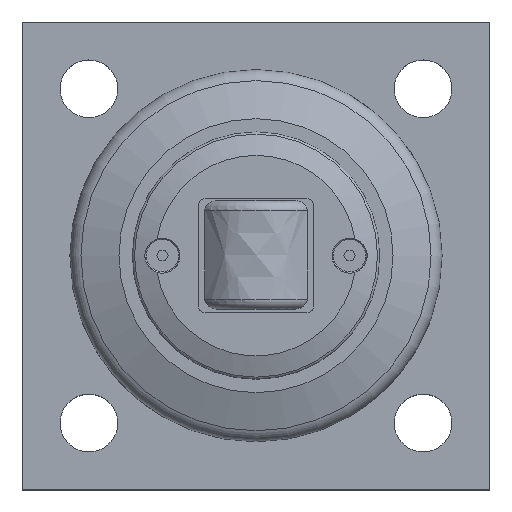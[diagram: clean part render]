
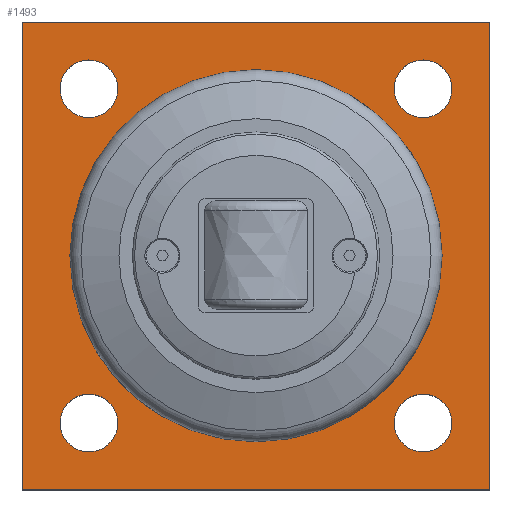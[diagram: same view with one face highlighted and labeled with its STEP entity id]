
A CAD part, top view. The second image highlights one B-rep face of the part: STEP entity #1493.
In plain terms, the highlighted planar face has unit normal (0, 0, 1).
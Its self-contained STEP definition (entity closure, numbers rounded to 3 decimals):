
#80=FACE_BOUND('',#335,.T.);
#81=FACE_BOUND('',#336,.T.);
#82=FACE_BOUND('',#337,.T.);
#83=FACE_BOUND('',#338,.T.);
#84=FACE_BOUND('',#339,.T.);
#167=CIRCLE('',#1670,35.);
#168=CIRCLE('',#1672,8.647);
#169=CIRCLE('',#1673,8.647);
#170=CIRCLE('',#1674,8.647);
#171=CIRCLE('',#1675,8.647);
#172=CIRCLE('',#1676,8.647);
#173=CIRCLE('',#1677,8.647);
#174=CIRCLE('',#1678,8.647);
#175=CIRCLE('',#1679,8.647);
#245=FACE_OUTER_BOUND('',#334,.T.);
#334=EDGE_LOOP('',(#1289,#1290,#1291,#1292));
#335=EDGE_LOOP('',(#1293));
#336=EDGE_LOOP('',(#1294,#1295));
#337=EDGE_LOOP('',(#1296,#1297));
#338=EDGE_LOOP('',(#1298,#1299));
#339=EDGE_LOOP('',(#1300,#1301));
#439=LINE('',#2656,#550);
#440=LINE('',#2658,#551);
#441=LINE('',#2660,#552);
#442=LINE('',#2661,#553);
#550=VECTOR('',#2062,10.);
#551=VECTOR('',#2063,10.);
#552=VECTOR('',#2064,10.);
#553=VECTOR('',#2065,10.);
#698=VERTEX_POINT('',#2650);
#699=VERTEX_POINT('',#2654);
#700=VERTEX_POINT('',#2655);
#701=VERTEX_POINT('',#2657);
#702=VERTEX_POINT('',#2659);
#703=VERTEX_POINT('',#2662);
#704=VERTEX_POINT('',#2663);
#705=VERTEX_POINT('',#2666);
#706=VERTEX_POINT('',#2667);
#707=VERTEX_POINT('',#2670);
#708=VERTEX_POINT('',#2671);
#709=VERTEX_POINT('',#2674);
#710=VERTEX_POINT('',#2675);
#902=EDGE_CURVE('',#698,#698,#167,.T.);
#903=EDGE_CURVE('',#699,#700,#439,.T.);
#904=EDGE_CURVE('',#701,#699,#440,.T.);
#905=EDGE_CURVE('',#702,#701,#441,.T.);
#906=EDGE_CURVE('',#700,#702,#442,.T.);
#907=EDGE_CURVE('',#703,#704,#168,.T.);
#908=EDGE_CURVE('',#704,#703,#169,.T.);
#909=EDGE_CURVE('',#705,#706,#170,.T.);
#910=EDGE_CURVE('',#706,#705,#171,.T.);
#911=EDGE_CURVE('',#707,#708,#172,.T.);
#912=EDGE_CURVE('',#708,#707,#173,.T.);
#913=EDGE_CURVE('',#709,#710,#174,.T.);
#914=EDGE_CURVE('',#710,#709,#175,.T.);
#1289=ORIENTED_EDGE('',*,*,#903,.F.);
#1290=ORIENTED_EDGE('',*,*,#904,.F.);
#1291=ORIENTED_EDGE('',*,*,#905,.F.);
#1292=ORIENTED_EDGE('',*,*,#906,.F.);
#1293=ORIENTED_EDGE('',*,*,#902,.T.);
#1294=ORIENTED_EDGE('',*,*,#907,.T.);
#1295=ORIENTED_EDGE('',*,*,#908,.T.);
#1296=ORIENTED_EDGE('',*,*,#909,.T.);
#1297=ORIENTED_EDGE('',*,*,#910,.T.);
#1298=ORIENTED_EDGE('',*,*,#911,.T.);
#1299=ORIENTED_EDGE('',*,*,#912,.T.);
#1300=ORIENTED_EDGE('',*,*,#913,.T.);
#1301=ORIENTED_EDGE('',*,*,#914,.T.);
#1416=PLANE('',#1671);
#1493=ADVANCED_FACE('',(#245,#80,#81,#82,#83,#84),#1416,.T.);
#1670=AXIS2_PLACEMENT_3D('',#2652,#2058,#2059);
#1671=AXIS2_PLACEMENT_3D('',#2653,#2060,#2061);
#1672=AXIS2_PLACEMENT_3D('',#2664,#2066,#2067);
#1673=AXIS2_PLACEMENT_3D('',#2665,#2068,#2069);
#1674=AXIS2_PLACEMENT_3D('',#2668,#2070,#2071);
#1675=AXIS2_PLACEMENT_3D('',#2669,#2072,#2073);
#1676=AXIS2_PLACEMENT_3D('',#2672,#2074,#2075);
#1677=AXIS2_PLACEMENT_3D('',#2673,#2076,#2077);
#1678=AXIS2_PLACEMENT_3D('',#2676,#2078,#2079);
#1679=AXIS2_PLACEMENT_3D('',#2677,#2080,#2081);
#2058=DIRECTION('center_axis',(0.,0.,-1.));
#2059=DIRECTION('ref_axis',(-1.,0.,0.));
#2060=DIRECTION('center_axis',(0.,0.,1.));
#2061=DIRECTION('ref_axis',(1.,0.,0.));
#2062=DIRECTION('',(0.,1.,0.));
#2063=DIRECTION('',(-1.,0.,0.));
#2064=DIRECTION('',(0.,-1.,0.));
#2065=DIRECTION('',(1.,0.,0.));
#2066=DIRECTION('center_axis',(0.,0.,-1.));
#2067=DIRECTION('ref_axis',(1.,0.,0.));
#2068=DIRECTION('center_axis',(0.,0.,-1.));
#2069=DIRECTION('ref_axis',(1.,0.,0.));
#2070=DIRECTION('center_axis',(0.,0.,-1.));
#2071=DIRECTION('ref_axis',(1.,0.,0.));
#2072=DIRECTION('center_axis',(0.,0.,-1.));
#2073=DIRECTION('ref_axis',(1.,0.,0.));
#2074=DIRECTION('center_axis',(0.,0.,-1.));
#2075=DIRECTION('ref_axis',(1.,0.,0.));
#2076=DIRECTION('center_axis',(0.,0.,-1.));
#2077=DIRECTION('ref_axis',(1.,0.,0.));
#2078=DIRECTION('center_axis',(0.,0.,-1.));
#2079=DIRECTION('ref_axis',(1.,0.,0.));
#2080=DIRECTION('center_axis',(0.,0.,-1.));
#2081=DIRECTION('ref_axis',(1.,0.,0.));
#2650=CARTESIAN_POINT('',(105.,70.,20.));
#2652=CARTESIAN_POINT('Origin',(70.,70.,20.));
#2653=CARTESIAN_POINT('Origin',(70.,70.,20.));
#2654=CARTESIAN_POINT('',(0.,0.,20.));
#2655=CARTESIAN_POINT('',(0.,140.,20.));
#2656=CARTESIAN_POINT('',(0.,140.,20.));
#2657=CARTESIAN_POINT('',(140.,0.,20.));
#2658=CARTESIAN_POINT('',(0.,0.,20.));
#2659=CARTESIAN_POINT('',(140.,140.,20.));
#2660=CARTESIAN_POINT('',(140.,0.,20.));
#2661=CARTESIAN_POINT('',(140.,140.,20.));
#2662=CARTESIAN_POINT('',(28.647,120.,20.));
#2663=CARTESIAN_POINT('',(11.353,120.,20.));
#2664=CARTESIAN_POINT('Origin',(20.,120.,20.));
#2665=CARTESIAN_POINT('Origin',(20.,120.,20.));
#2666=CARTESIAN_POINT('',(128.647,120.,20.));
#2667=CARTESIAN_POINT('',(111.353,120.,20.));
#2668=CARTESIAN_POINT('Origin',(120.,120.,20.));
#2669=CARTESIAN_POINT('Origin',(120.,120.,20.));
#2670=CARTESIAN_POINT('',(128.647,20.,20.));
#2671=CARTESIAN_POINT('',(111.353,20.,20.));
#2672=CARTESIAN_POINT('Origin',(120.,20.,20.));
#2673=CARTESIAN_POINT('Origin',(120.,20.,20.));
#2674=CARTESIAN_POINT('',(28.647,20.,20.));
#2675=CARTESIAN_POINT('',(11.353,20.,20.));
#2676=CARTESIAN_POINT('Origin',(20.,20.,20.));
#2677=CARTESIAN_POINT('Origin',(20.,20.,20.));
